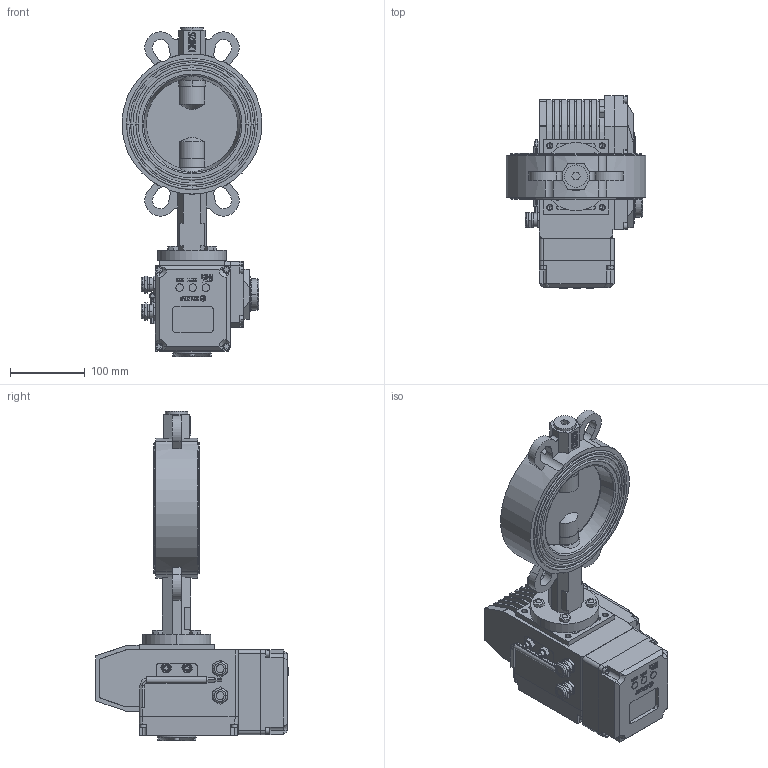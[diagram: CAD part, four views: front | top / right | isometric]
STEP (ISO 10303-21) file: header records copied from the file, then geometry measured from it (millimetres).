
FILE_DESCRIPTION((''),'2;1');
FILE_NAME('VBS_EAR_A_ASM','2025-02-22T',('AMD'),(''),'PRO/ENGINEER BY PARAMETRIC TECHNOLOGY CORPORATION, 2008020','PRO/ENGINEER BY PARAMETRIC TECHNOLOGY CORPORATION, 2008020','');
FILE_SCHEMA(('CONFIG_CONTROL_DESIGN'));
Length unit declared in the file: millimetre
Products named in the file (28): KORPUS; REZ; DISK; SHTIR_1; ZAGLUSHKA; O-RING; SHTIR_2; SHAIBA_RAZREZ; SHAIBA; KOLCO_30_GOST13943; VTULKA; MANZET_REZ; SB_ASM; B-7798-M8-25; DET_1; V-11738-M5; V-11738-M4; DET_2; KREPLENIE; KLUCH; DET_3; G-5915-M8; ELECTROPRIVOD_ASM; DET_4; DET_5; DISPLAY_ASM; ELECTROPRIVOD_WITH_DISPLAY_ASM; VBS_EAR_A_ASM
Assembly tree (53 placements, depth 4):
  VBS_EAR_A_ASM
    SB_ASM
      KORPUS
      REZ
      DISK
      SHTIR_1
      ZAGLUSHKA
      O-RING  x2
      SHTIR_2
      SHAIBA_RAZREZ
      SHAIBA  x2
      KOLCO_30_GOST13943
      VTULKA  x5
      MANZET_REZ
    B-7798-M8-25  x4
    ELECTROPRIVOD_WITH_DISPLAY_ASM
      ELECTROPRIVOD_ASM
        DET_1
        V-11738-M5  x10
        V-11738-M4  x4
        DET_2
        KREPLENIE
        KLUCH
        DET_3
        G-5915-M8  x2
      DISPLAY_ASM
        DET_4
        DET_5
        V-11738-M5  x4
Bounding box: 186.31 x 257 x 440.5 mm (x, y, z)
Volume: 4245811.8 mm3; surface area: 628371.5 mm2
Topology: 49 solids, 92 shells, 2813 faces, 7450 edges, 4917 vertices
Faces by surface type: plane 1845, cylinder 528, extrusion 300, cone 102, torus 38
Entity records: 78321 total; most frequent: CARTESIAN_POINT 16491, ORIENTED_EDGE 13044, DIRECTION 11744, EDGE_CURVE 6570, VECTOR 5172, LINE 4872, VERTEX_POINT 4351, AXIS2_PLACEMENT_3D 3286
